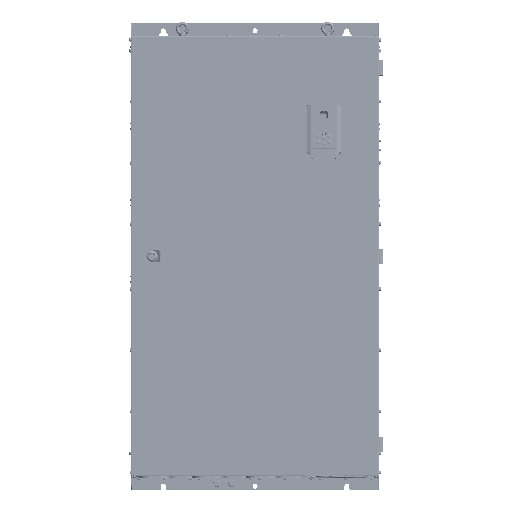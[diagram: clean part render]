
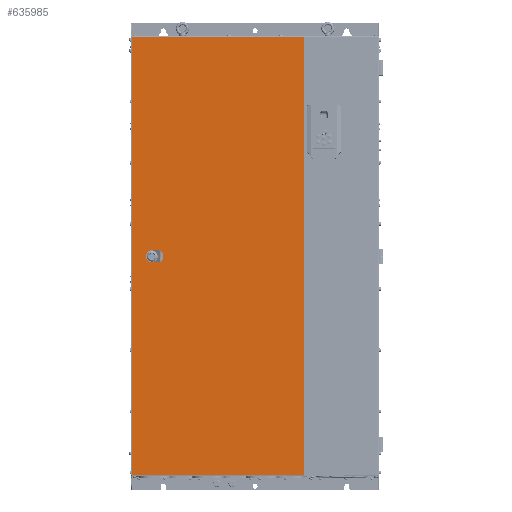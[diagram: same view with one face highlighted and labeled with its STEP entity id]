
A CAD part, top view. The second image highlights one B-rep face of the part: STEP entity #635985.
In plain terms, the highlighted planar face has unit normal (0, 0, 1).
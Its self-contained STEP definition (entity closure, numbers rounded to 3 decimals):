
#633892=DIRECTION('',(0.,-1.,0.));
#633893=VECTOR('',#633892,1145.05);
#633894=CARTESIAN_POINT('',(-322.25,1147.75,10.5));
#633895=LINE('',#633894,#633893);
#634260=DIRECTION('',(1.,0.,0.));
#634261=VECTOR('',#634260,449.25);
#634262=CARTESIAN_POINT('',(-322.25,2.7,10.5));
#634263=LINE('',#634262,#634261);
#634321=DIRECTION('',(1.,0.,0.));
#634322=VECTOR('',#634321,10.308);
#634323=CARTESIAN_POINT('',(-274.654,585.,10.5));
#634324=LINE('',#634323,#634322);
#634328=CARTESIAN_POINT('',(-269.5,575.,10.5));
#634329=DIRECTION('',(0.,0.,1.));
#634330=DIRECTION('',(-0.458,0.889,0.));
#634331=AXIS2_PLACEMENT_3D('',#634328,#634329,#634330);
#634336=DIRECTION('',(0.,1.,0.));
#634337=VECTOR('',#634336,10.308);
#634338=CARTESIAN_POINT('',(-279.5,569.846,10.5));
#634339=LINE('',#634338,#634337);
#634343=CARTESIAN_POINT('',(-269.5,575.,10.5));
#634344=DIRECTION('',(0.,0.,1.));
#634345=DIRECTION('',(-0.889,-0.458,0.));
#634346=AXIS2_PLACEMENT_3D('',#634343,#634344,#634345);
#634351=DIRECTION('',(-1.,0.,0.));
#634352=VECTOR('',#634351,10.308);
#634353=CARTESIAN_POINT('',(-264.346,565.,10.5));
#634354=LINE('',#634353,#634352);
#634358=CARTESIAN_POINT('',(-269.5,575.,10.5));
#634359=DIRECTION('',(0.,0.,1.));
#634360=DIRECTION('',(0.458,-0.889,0.));
#634361=AXIS2_PLACEMENT_3D('',#634358,#634359,#634360);
#634366=DIRECTION('',(0.,-1.,0.));
#634367=VECTOR('',#634366,10.308);
#634368=CARTESIAN_POINT('',(-259.5,580.154,10.5));
#634369=LINE('',#634368,#634367);
#634373=CARTESIAN_POINT('',(-269.5,575.,10.5));
#634374=DIRECTION('',(0.,0.,1.));
#634375=DIRECTION('',(0.889,0.458,0.));
#634376=AXIS2_PLACEMENT_3D('',#634373,#634374,#634375);
#634381=DIRECTION('',(0.,-1.,0.));
#634382=VECTOR('',#634381,1145.05);
#634383=CARTESIAN_POINT('',(127.,1147.75,10.5));
#634384=LINE('',#634383,#634382);
#634466=DIRECTION('',(1.,0.,0.));
#634467=VECTOR('',#634466,449.25);
#634468=CARTESIAN_POINT('',(-322.25,1147.75,10.5));
#634469=LINE('',#634468,#634467);
#635304=CARTESIAN_POINT('',(-322.25,1147.75,10.5));
#635305=CARTESIAN_POINT('',(-322.25,2.7,10.5));
#635306=VERTEX_POINT('',#635304);
#635307=VERTEX_POINT('',#635305);
#635417=CARTESIAN_POINT('',(-274.654,585.,10.5));
#635418=CARTESIAN_POINT('',(-264.346,585.,10.5));
#635419=VERTEX_POINT('',#635417);
#635420=VERTEX_POINT('',#635418);
#635421=CARTESIAN_POINT('',(-259.5,580.154,10.5));
#635422=VERTEX_POINT('',#635421);
#635423=CARTESIAN_POINT('',(-259.5,569.846,10.5));
#635424=VERTEX_POINT('',#635423);
#635425=CARTESIAN_POINT('',(-264.346,565.,10.5));
#635426=VERTEX_POINT('',#635425);
#635427=CARTESIAN_POINT('',(-274.654,565.,10.5));
#635428=VERTEX_POINT('',#635427);
#635429=CARTESIAN_POINT('',(-279.5,569.846,10.5));
#635430=VERTEX_POINT('',#635429);
#635431=CARTESIAN_POINT('',(-279.5,580.154,10.5));
#635432=VERTEX_POINT('',#635431);
#635449=CARTESIAN_POINT('',(127.,1147.75,10.5));
#635450=CARTESIAN_POINT('',(127.,2.7,10.5));
#635451=VERTEX_POINT('',#635449);
#635452=VERTEX_POINT('',#635450);
#635955=CARTESIAN_POINT('',(-324.5,1150.,10.5));
#635956=DIRECTION('',(0.,0.,1.));
#635957=DIRECTION('',(0.,-1.,0.));
#635958=AXIS2_PLACEMENT_3D('',#635955,#635956,#635957);
#635959=PLANE('',#635958);
#635960=ORIENTED_EDGE('',*,*,#635946,.T.);
#635961=ORIENTED_EDGE('',*,*,#635885,.F.);
#635962=ORIENTED_EDGE('',*,*,#635637,.F.);
#635964=ORIENTED_EDGE('',*,*,#635963,.T.);
#635965=EDGE_LOOP('',(#635960,#635961,#635962,#635964));
#635966=FACE_OUTER_BOUND('',#635965,.F.);
#635968=ORIENTED_EDGE('',*,*,#635967,.F.);
#635970=ORIENTED_EDGE('',*,*,#635969,.T.);
#635972=ORIENTED_EDGE('',*,*,#635971,.F.);
#635974=ORIENTED_EDGE('',*,*,#635973,.T.);
#635976=ORIENTED_EDGE('',*,*,#635975,.F.);
#635978=ORIENTED_EDGE('',*,*,#635977,.T.);
#635980=ORIENTED_EDGE('',*,*,#635979,.F.);
#635982=ORIENTED_EDGE('',*,*,#635981,.T.);
#635983=EDGE_LOOP('',(#635968,#635970,#635972,#635974,#635976,#635978,#635980,
#635982));
#635984=FACE_BOUND('',#635983,.F.);
#635985=ADVANCED_FACE('',(#635966,#635984),#635959,.T.);
#634332=CIRCLE('',#634331,11.25);
#634347=CIRCLE('',#634346,11.25);
#634362=CIRCLE('',#634361,11.25);
#634377=CIRCLE('',#634376,11.25);
#635637=EDGE_CURVE('',#635306,#635307,#633895,.T.);
#635885=EDGE_CURVE('',#635307,#635452,#634263,.T.);
#635946=EDGE_CURVE('',#635451,#635452,#634384,.T.);
#635963=EDGE_CURVE('',#635306,#635451,#634469,.T.);
#635967=EDGE_CURVE('',#635419,#635420,#634324,.T.);
#635969=EDGE_CURVE('',#635419,#635432,#634332,.T.);
#635971=EDGE_CURVE('',#635430,#635432,#634339,.T.);
#635973=EDGE_CURVE('',#635430,#635428,#634347,.T.);
#635975=EDGE_CURVE('',#635426,#635428,#634354,.T.);
#635977=EDGE_CURVE('',#635426,#635424,#634362,.T.);
#635979=EDGE_CURVE('',#635422,#635424,#634369,.T.);
#635981=EDGE_CURVE('',#635422,#635420,#634377,.T.);
